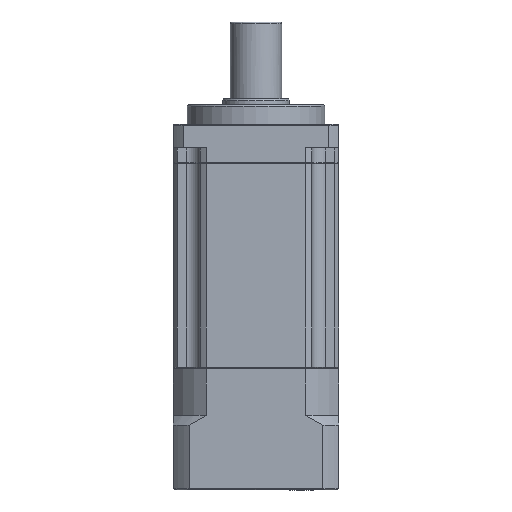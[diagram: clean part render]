
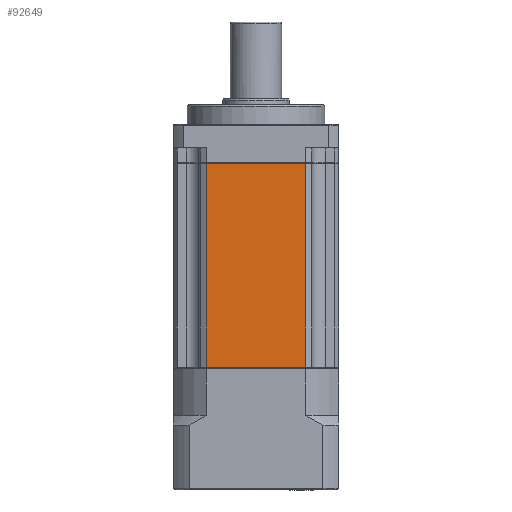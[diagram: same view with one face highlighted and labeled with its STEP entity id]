
A CAD part, front view. The second image highlights one B-rep face of the part: STEP entity #92649.
In plain terms, the highlighted planar face has unit normal (0, -1, 0).
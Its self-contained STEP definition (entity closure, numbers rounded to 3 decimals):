
#1325 = DIRECTION ( 'NONE',  ( 0., 0., -1. ) ) ;
#2466 = CARTESIAN_POINT ( 'NONE',  ( 15.192, 4.708, 94.547 ) ) ;
#4333 = LINE ( 'NONE', #81218, #106195 ) ;
#13228 = VECTOR ( 'NONE', #31775, 1000. ) ;
#15821 = CARTESIAN_POINT ( 'NONE',  ( 16.75, 4.708, 94.547 ) ) ;
#16032 = DIRECTION ( 'NONE',  ( -1., 0., 0. ) ) ;
#20071 = VERTEX_POINT ( 'NONE', #60947 ) ;
#20942 = VERTEX_POINT ( 'NONE', #129993 ) ;
#28386 = PLANE ( 'NONE',  #121315 ) ;
#31775 = DIRECTION ( 'NONE',  ( 1., 0., 0. ) ) ;
#31909 = ORIENTED_EDGE ( 'NONE', *, *, #67271, .F. ) ;
#45771 = VECTOR ( 'NONE', #16032, 1000. ) ;
#49846 = ORIENTED_EDGE ( 'NONE', *, *, #113616, .F. ) ;
#53284 = CARTESIAN_POINT ( 'NONE',  ( 41.989, 4.708, 94.547 ) ) ;
#53913 = LINE ( 'NONE', #88405, #45771 ) ;
#60673 = FACE_OUTER_BOUND ( 'NONE', #118147, .T. ) ;
#60947 = CARTESIAN_POINT ( 'NONE',  ( 16.75, 4.708, 42.797 ) ) ;
#62409 = VECTOR ( 'NONE', #1325, 1000. ) ;
#64154 = CARTESIAN_POINT ( 'NONE',  ( 41.989, 4.708, 42.547 ) ) ;
#66200 = VERTEX_POINT ( 'NONE', #53284 ) ;
#67271 = EDGE_CURVE ( 'NONE', #102836, #66200, #133060, .T. ) ;
#67769 = ORIENTED_EDGE ( 'NONE', *, *, #125786, .F. ) ;
#81218 = CARTESIAN_POINT ( 'NONE',  ( 16.75, 4.708, 42.547 ) ) ;
#86346 = EDGE_CURVE ( 'NONE', #20942, #20071, #53913, .T. ) ;
#88405 = CARTESIAN_POINT ( 'NONE',  ( 47.047, 4.708, 42.797 ) ) ;
#88417 = LINE ( 'NONE', #64154, #62409 ) ;
#89266 = ORIENTED_EDGE ( 'NONE', *, *, #86346, .F. ) ;
#92649 = ADVANCED_FACE ( 'NONE', ( #60673 ), #28386, .F. ) ;
#102836 = VERTEX_POINT ( 'NONE', #15821 ) ;
#106195 = VECTOR ( 'NONE', #124601, 1000. ) ;
#109817 = CARTESIAN_POINT ( 'NONE',  ( 15.192, 4.708, 42.547 ) ) ;
#110281 = DIRECTION ( 'NONE',  ( 0., 1., 0. ) ) ;
#113616 = EDGE_CURVE ( 'NONE', #20071, #102836, #4333, .T. ) ;
#118147 = EDGE_LOOP ( 'NONE', ( #89266, #67769, #31909, #49846 ) ) ;
#119810 = DIRECTION ( 'NONE',  ( -1., 0., 0. ) ) ;
#121315 = AXIS2_PLACEMENT_3D ( 'NONE', #109817, #110281, #119810 ) ;
#124601 = DIRECTION ( 'NONE',  ( 0., 0., 1. ) ) ;
#125786 = EDGE_CURVE ( 'NONE', #66200, #20942, #88417, .T. ) ;
#129993 = CARTESIAN_POINT ( 'NONE',  ( 41.989, 4.708, 42.797 ) ) ;
#133060 = LINE ( 'NONE', #2466, #13228 ) ;
